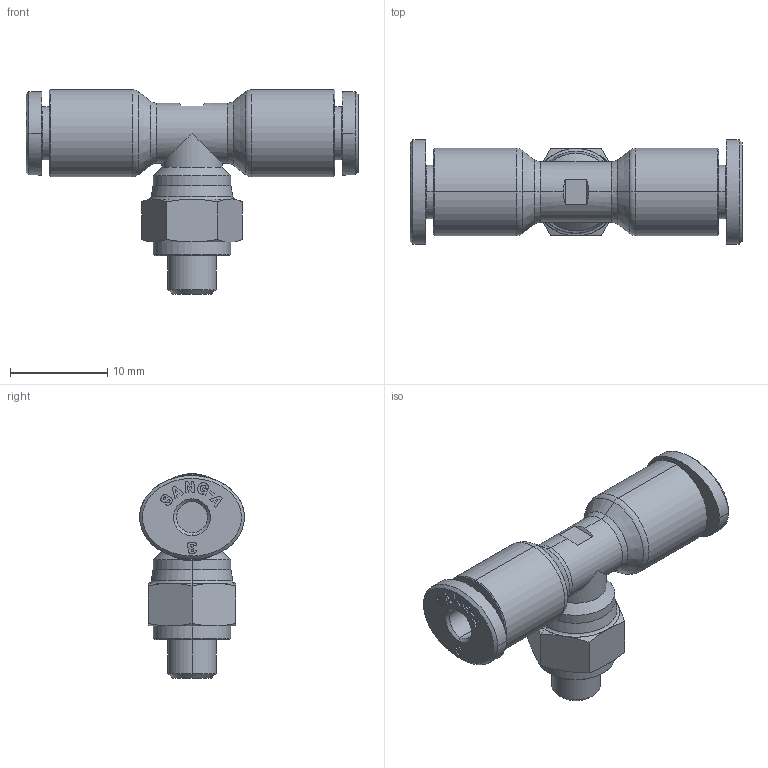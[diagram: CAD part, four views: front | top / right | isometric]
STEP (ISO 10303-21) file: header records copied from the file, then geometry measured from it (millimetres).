
FILE_DESCRIPTION((''),'2;1');
FILE_NAME('GPT 03M5(3D).stp','2012-12-26T18:52:40',(''),(''),'Mechanical Desktop.R8.0.24.0','Mechanical Desktop.R8.0.24.0',', , ');
FILE_SCHEMA(('CONFIG_CONTROL_DESIGN'));
Length unit declared in the file: millimetre
Products named in the file (2): GPT 03M5(3D); 睡ヶ1
Assembly tree (1 placements, depth 2):
  GPT 03M5(3D)
    睡ヶ1
Bounding box: 34.2 x 10.8 x 21.1 mm (x, y, z)
Volume: 2194.2 mm3; surface area: 1924.7 mm2
Topology: 1 solids, 1 shells, 536 faces, 1456 edges, 947 vertices
Faces by surface type: plane 386, bspline 64, cone 42, cylinder 40, torus 4
Entity records: 18259 total; most frequent: CARTESIAN_POINT 4769, ORIENTED_EDGE 2908, DIRECTION 2618, EDGE_CURVE 1454, VECTOR 1158, LINE 1158, VERTEX_POINT 947, AXIS2_PLACEMENT_3D 730
